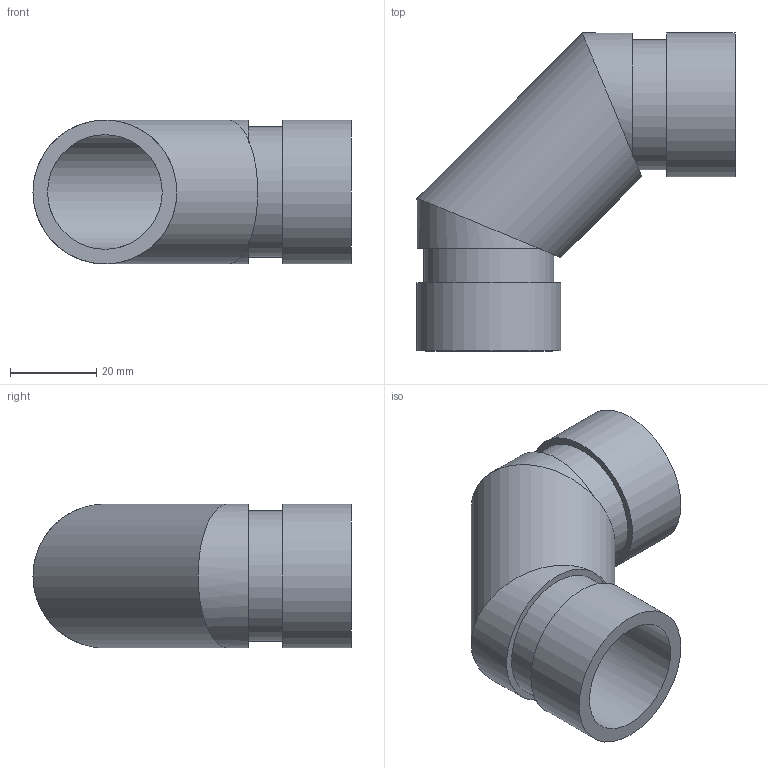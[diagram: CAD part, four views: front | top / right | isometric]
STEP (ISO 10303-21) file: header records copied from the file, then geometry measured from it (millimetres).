
FILE_DESCRIPTION(/* description */ ('VIC 90 DEG ELBOW FABRICATED No 10 SWS (OGS)','CAx-IF Rec.Pracs.---Representation and Presentation of Product Manufacturing Information (PMI)---4.0---2014-10-13'),/* implementation_level */ '2;1');
FILE_NAME(/* name */ 'C:\Users\kkamble\AppData\Roaming\Autodesk\ApplicationPlugins\Back Up\Victaulic_IPS_Elbow 90 Deg_No 10 SWS (OGS)\Victaulic_IPS_Elbow 90 Deg_No 10 SWS (OGS)_1 (25).stp',/* time_stamp */ '2020-09-16T22:17:13+06:00',/* author */ ('cgray'),/* organization */ ('Victaulic'),/* preprocessor_version */ 'ST-DEVELOPER v17.2',/* originating_system */ 'Autodesk Inventor 2019',/* authorisation */ '');
FILE_SCHEMA (('AP242_MANAGED_MODEL_BASED_3D_ENGINEERING_MIM_LF { 1 0 10303 442 1 1 4 }'));
Length unit declared in the file: inch
Products named in the file (1): 10 SWS-01.0
Bounding box: 73.85 x 73.85 x 33.4 mm (x, y, z)
Volume: 28563.1 mm3; surface area: 19672.5 mm2
Topology: 1 solids, 1 shells, 18 faces, 42 edges, 30 vertices
Faces by surface type: cylinder 12, plane 6
Full cylindrical faces by diameter (mm): 26.645 x3, 30.226 x2, 33.401 x3
Entity records: 702 total; most frequent: DIRECTION 140, CARTESIAN_POINT 108, ORIENTED_EDGE 84, AXIS2_PLACEMENT_3D 66, EDGE_CURVE 42, VERTEX_POINT 30, EDGE_LOOP 24, STYLED_ITEM 20
